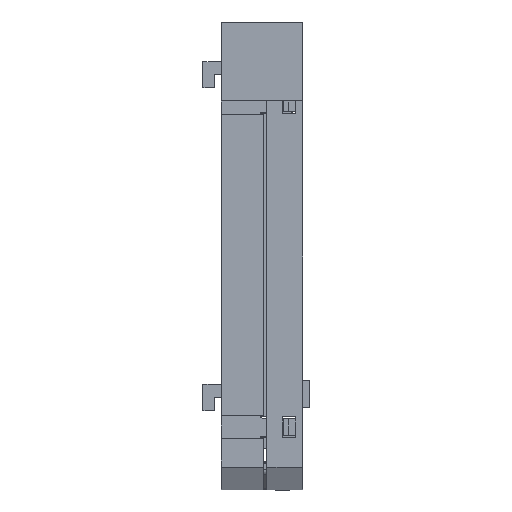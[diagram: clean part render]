
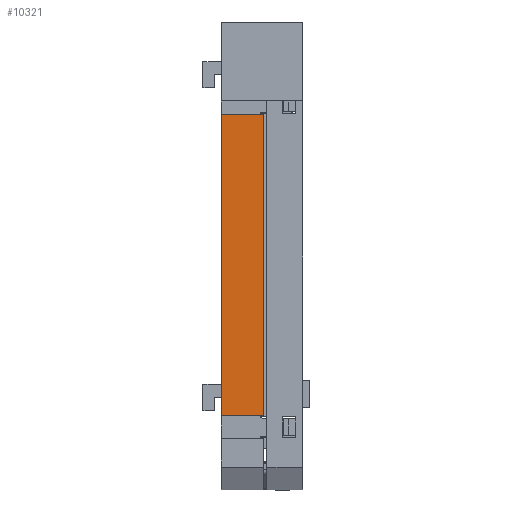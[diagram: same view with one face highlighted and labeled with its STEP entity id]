
A CAD part, front view. The second image highlights one B-rep face of the part: STEP entity #10321.
In plain terms, the highlighted planar face has unit normal (0, -1, 0).
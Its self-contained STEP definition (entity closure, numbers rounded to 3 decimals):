
#195 = CARTESIAN_POINT ( 'NONE',  ( 6.5, 0., -11.141 ) ) ;
#1210 = DIRECTION ( 'NONE',  ( 1., 0., 0. ) ) ;
#1566 = VECTOR ( 'NONE', #12671, 1000. ) ;
#2416 = AXIS2_PLACEMENT_3D ( 'NONE', #32656, #11085, #30129 ) ;
#2428 = LINE ( 'NONE', #9959, #1566 ) ;
#4610 = CARTESIAN_POINT ( 'NONE',  ( 6.5, 0., -57.349 ) ) ;
#5303 = VECTOR ( 'NONE', #7313, 1000. ) ;
#5406 = DIRECTION ( 'NONE',  ( 0., 0., -1. ) ) ;
#6937 = CARTESIAN_POINT ( 'NONE',  ( 0., 0., -57.349 ) ) ;
#7313 = DIRECTION ( 'NONE',  ( 1., 0., 0. ) ) ;
#7482 = EDGE_CURVE ( 'NONE', #29233, #25630, #12485, .T. ) ;
#8430 = VECTOR ( 'NONE', #5406, 1000. ) ;
#9959 = CARTESIAN_POINT ( 'NONE',  ( 6.5, 0., 0. ) ) ;
#10321 = ADVANCED_FACE ( 'NONE', ( #14379 ), #24672, .F. ) ;
#10792 = ORIENTED_EDGE ( 'NONE', *, *, #15340, .T. ) ;
#11085 = DIRECTION ( 'NONE',  ( 0., 1., 0. ) ) ;
#12485 = LINE ( 'NONE', #34437, #5303 ) ;
#12671 = DIRECTION ( 'NONE',  ( 0., 0., -1. ) ) ;
#14121 = VERTEX_POINT ( 'NONE', #6937 ) ;
#14379 = FACE_OUTER_BOUND ( 'NONE', #18174, .T. ) ;
#15340 = EDGE_CURVE ( 'NONE', #14121, #26951, #15506, .T. ) ;
#15430 = ORIENTED_EDGE ( 'NONE', *, *, #21907, .T. ) ;
#15506 = LINE ( 'NONE', #17503, #29113 ) ;
#16487 = ORIENTED_EDGE ( 'NONE', *, *, #7482, .F. ) ;
#17077 = CARTESIAN_POINT ( 'NONE',  ( 0., 0., -11.141 ) ) ;
#17503 = CARTESIAN_POINT ( 'NONE',  ( 0., 0., -57.349 ) ) ;
#18174 = EDGE_LOOP ( 'NONE', ( #15430, #10792, #31286, #16487 ) ) ;
#21181 = LINE ( 'NONE', #21667, #8430 ) ;
#21667 = CARTESIAN_POINT ( 'NONE',  ( 0., 0., 0. ) ) ;
#21907 = EDGE_CURVE ( 'NONE', #29233, #14121, #21181, .T. ) ;
#24168 = EDGE_CURVE ( 'NONE', #25630, #26951, #2428, .T. ) ;
#24672 = PLANE ( 'NONE',  #2416 ) ;
#25630 = VERTEX_POINT ( 'NONE', #195 ) ;
#26951 = VERTEX_POINT ( 'NONE', #4610 ) ;
#29113 = VECTOR ( 'NONE', #1210, 1000. ) ;
#29233 = VERTEX_POINT ( 'NONE', #17077 ) ;
#30129 = DIRECTION ( 'NONE',  ( 0., 0., 1. ) ) ;
#31286 = ORIENTED_EDGE ( 'NONE', *, *, #24168, .F. ) ;
#32656 = CARTESIAN_POINT ( 'NONE',  ( 7., 0., 0. ) ) ;
#34437 = CARTESIAN_POINT ( 'NONE',  ( 0., 0., -11.141 ) ) ;
